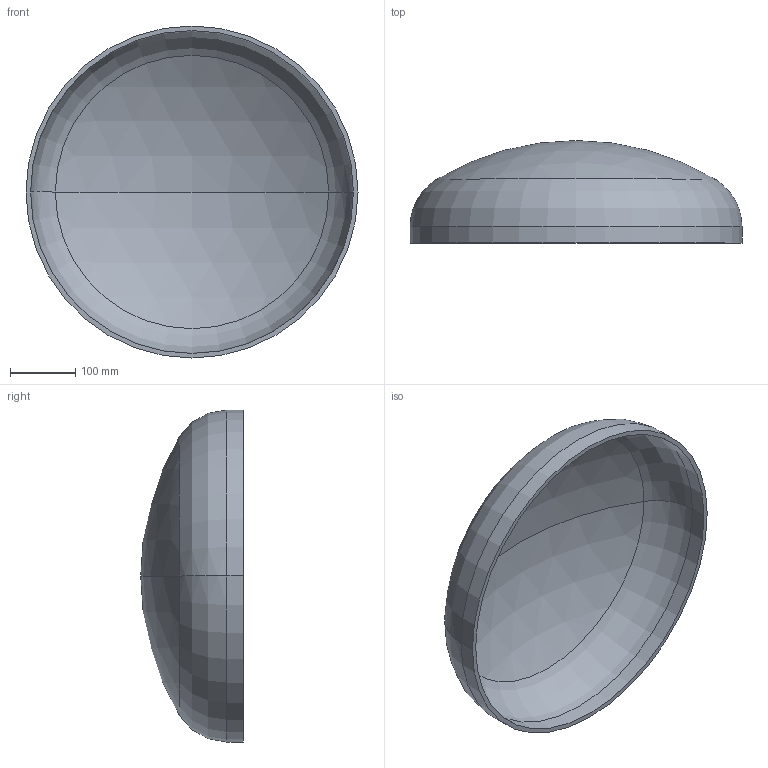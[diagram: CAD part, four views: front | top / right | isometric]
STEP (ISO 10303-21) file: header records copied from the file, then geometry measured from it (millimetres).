
FILE_DESCRIPTION (( 'STEP AP203' ), '1' );
FILE_NAME ('DIN 28013 Korbbogenform_-_Boden DIN 28013 - 508 x 25 - I - s=7.step', '2016-07-01T07:52:02', ( '' ), ( '' ), 'SwSTEP 2.0', 'SolidWorks 2013', '' );
FILE_SCHEMA (( 'CONFIG_CONTROL_DESIGN' ));
Length unit declared in the file: millimetre
Products named in the file (1): DIN 28013 Korbbogenform_-_Boden DIN 28013 - 508 x 25 - I - s=7
Bounding box: 508 x 156.89 x 508 mm (x, y, z)
Volume: 2204020.2 mm3; surface area: 640840 mm2
Topology: 1 solids, 1 shells, 13 faces, 24 edges, 14 vertices
Faces by surface type: torus 4, cylinder 4, sphere 4, plane 1
Entity records: 407 total; most frequent: DIRECTION 72, CARTESIAN_POINT 52, ORIENTED_EDGE 48, AXIS2_PLACEMENT_3D 34, EDGE_CURVE 24, CIRCLE 20, EDGE_LOOP 14, VERTEX_POINT 14
